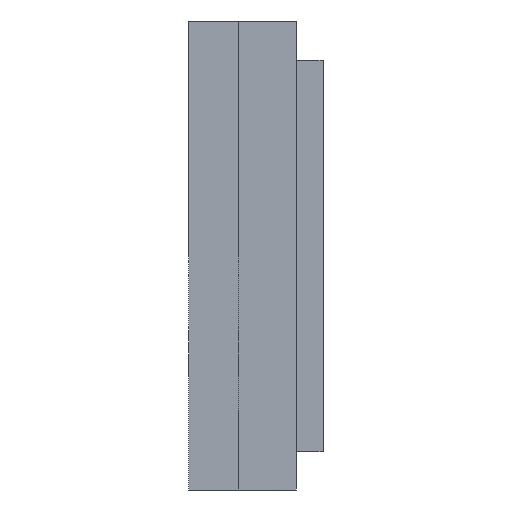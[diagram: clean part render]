
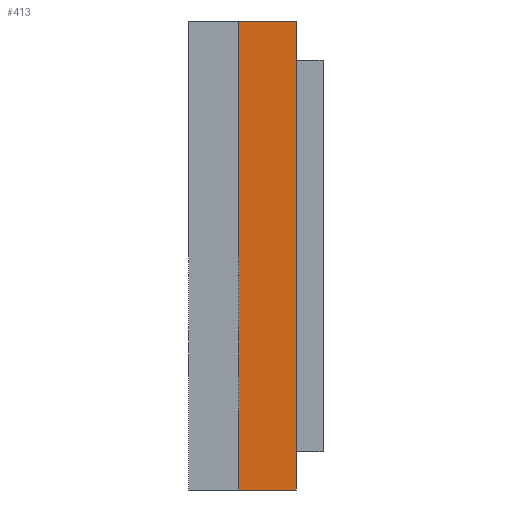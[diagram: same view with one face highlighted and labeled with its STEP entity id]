
A CAD part, left-side view. The second image highlights one B-rep face of the part: STEP entity #413.
In plain terms, the highlighted planar face has unit normal (-1, 0, 0).
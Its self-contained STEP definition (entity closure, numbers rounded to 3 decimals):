
#413=ADVANCED_FACE('',(#892),#894,.T.);
#892=FACE_BOUND('',#893,.T.);
#893=EDGE_LOOP('',(#1255,#1256,#1257,#1258));
#894=PLANE('',#895);
#895=AXIS2_PLACEMENT_3D('',#896,#897,#898);
#896=CARTESIAN_POINT('',(-153.,0.,-61.));
#897=DIRECTION('',(-1.,0.,0.));
#898=DIRECTION('',(0.,0.,1.));
#1255=ORIENTED_EDGE('',*,*,#1422,.T.);
#1256=ORIENTED_EDGE('',*,*,#1435,.F.);
#1257=ORIENTED_EDGE('',*,*,#1361,.T.);
#1258=ORIENTED_EDGE('',*,*,#1433,.T.);
#1361=EDGE_CURVE('',#1536,#1534,#1537,.T.);
#1422=EDGE_CURVE('',#1642,#1639,#1643,.T.);
#1433=EDGE_CURVE('',#1534,#1642,#1662,.T.);
#1435=EDGE_CURVE('',#1536,#1639,#1664,.T.);
#1534=VERTEX_POINT('',#1886);
#1536=VERTEX_POINT('',#1890);
#1537=LINE('',#1891,#1892);
#1639=VERTEX_POINT('',#2135);
#1642=VERTEX_POINT('',#2140);
#1643=LINE('',#2141,#2142);
#1662=LINE('',#2186,#2187);
#1664=LINE('',#2192,#2193);
#1886=CARTESIAN_POINT('',(-153.,0.,61.));
#1890=CARTESIAN_POINT('',(-153.,0.,-61.));
#1891=CARTESIAN_POINT('',(-153.,0.,-61.));
#1892=VECTOR('',#1893,1.);
#1893=DIRECTION('',(0.,0.,1.));
#2135=CARTESIAN_POINT('',(-153.,15.,-61.));
#2140=CARTESIAN_POINT('',(-153.,15.,61.));
#2141=CARTESIAN_POINT('',(-153.,15.,61.));
#2142=VECTOR('',#2143,1.);
#2143=DIRECTION('',(0.,0.,-1.));
#2186=CARTESIAN_POINT('',(-153.,0.,61.));
#2187=VECTOR('',#2188,1.);
#2188=DIRECTION('',(0.,1.,0.));
#2192=CARTESIAN_POINT('',(-153.,0.,-61.));
#2193=VECTOR('',#2194,1.);
#2194=DIRECTION('',(0.,1.,0.));
